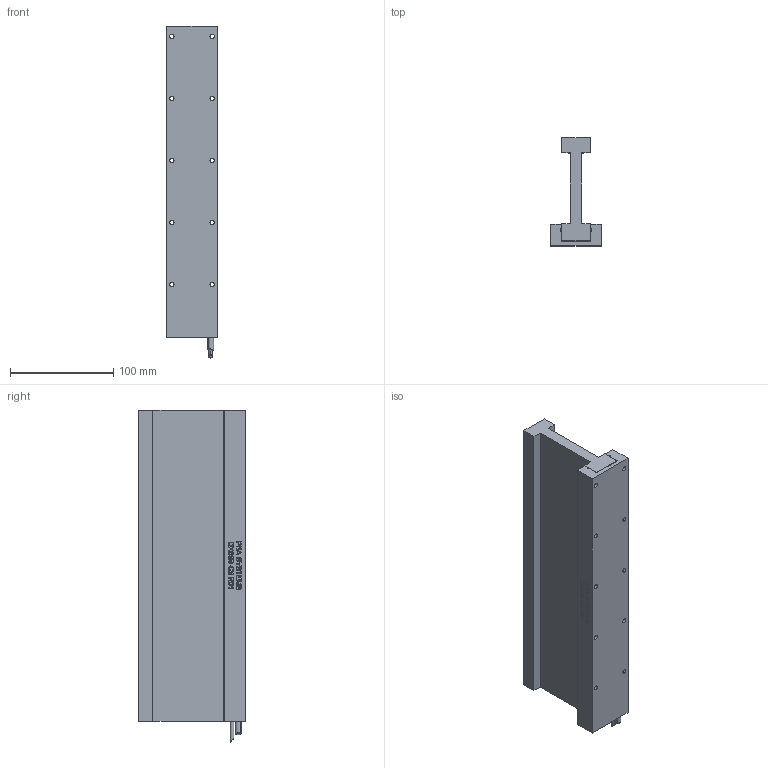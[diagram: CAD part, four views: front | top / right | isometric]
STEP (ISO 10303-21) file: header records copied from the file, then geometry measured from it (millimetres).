
FILE_DESCRIPTION (( 'STEP AP214' ), '1' );
FILE_NAME ('DX65B-C5-000.STEP', '2016-05-09T09:07:11', ( '' ), ( '' ), 'SwSTEP 2.0', 'SolidWorks 2015', '' );
FILE_SCHEMA (( 'AUTOMOTIVE_DESIGN' ));
Length unit declared in the file: millimetre
Products named in the file (5): CBL_MTR_PWR_SS_7C2C_SA (#2936-1); CBL_MTR_HALL_SS_5C_SA (#2935-1); DX65B-CX-002_C5; DX65B-C5-001_CUSTOMER C5; DX65B-C5-000
Assembly tree (4 placements, depth 2):
  DX65B-C5-000
    DX65B-C5-001_CUSTOMER C5
    DX65B-CX-002_C5
    CBL_MTR_HALL_SS_5C_SA (#2935-1)
    CBL_MTR_PWR_SS_7C2C_SA (#2936-1)
Bounding box: 49 x 104 x 321 mm (x, y, z)
Volume: 646607.3 mm3; surface area: 145846.4 mm2
Topology: 4 solids, 4 shells, 700 faces, 1887 edges, 1258 vertices
Faces by surface type: plane 374, bspline 296, cylinder 30
Entity records: 37445 total; most frequent: CARTESIAN_POINT 21340, ORIENTED_EDGE 3774, DIRECTION 2173, EDGE_CURVE 1887, VERTEX_POINT 1258, LINE 1239, VECTOR 1239, EDGE_LOOP 783
